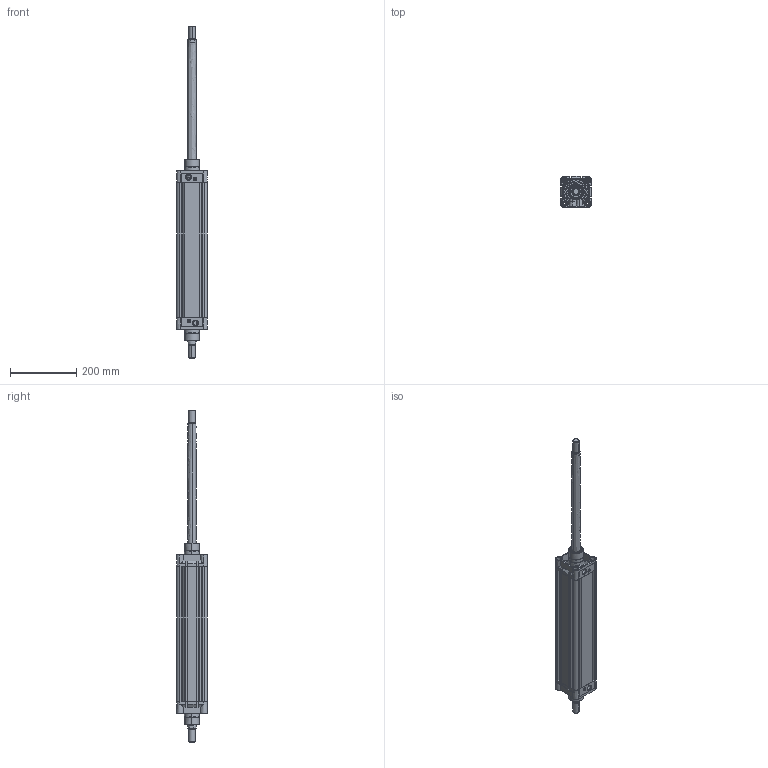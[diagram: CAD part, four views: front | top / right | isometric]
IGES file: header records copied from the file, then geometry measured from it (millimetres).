
Start section: SolidWorks IGES file using analytic representation for surfaces
Global section: file name: D:\ARICA 3D 禽Z軲LER\3D IGES\KDNC 禽FT M軱L輁KDNC80\KDNC80X350CIFTMILLI-CYLINDER.IGS; native system: SolidWorks 2013; preprocessor: SolidWorks 2013; author: user; date: 150318.132633; units: millimetre
Bounding box: 93 x 93.3 x 1000 mm (x, y, z)
Surface area: 618071.4 mm2 (no closed solid volume)
Topology: 0 solids, 0 shells, 1123 faces, 18463 edges, 18451 vertices
Faces by surface type: revolution 651, bspline 472
